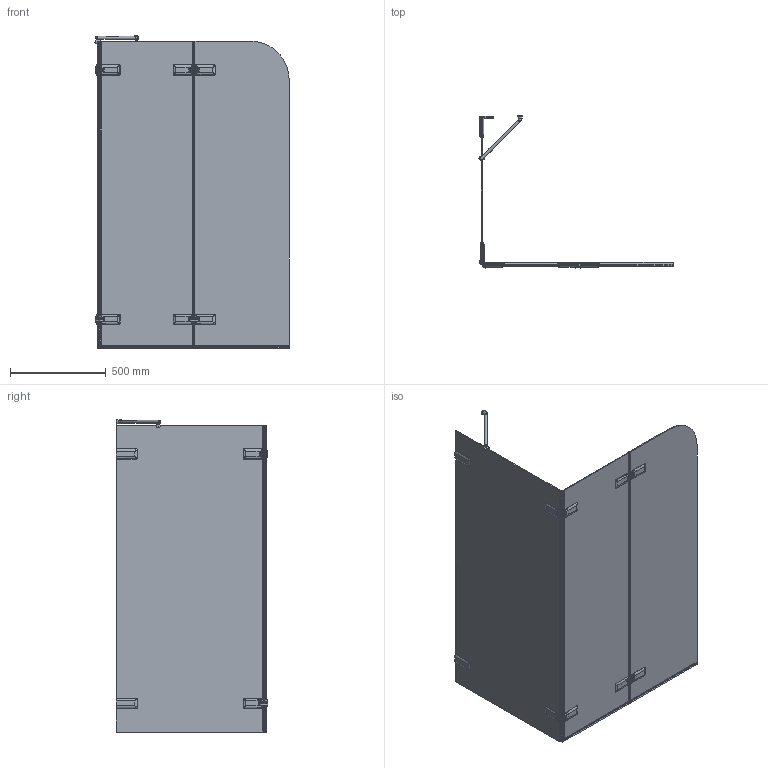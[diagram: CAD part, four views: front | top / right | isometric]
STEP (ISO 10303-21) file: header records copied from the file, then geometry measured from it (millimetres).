
FILE_DESCRIPTION(/* description */ (''),/* implementation_level */ '2;1');
FILE_NAME(/* name */ 'E:\Работа\Сергей\Душевые кабинки\! Работа\\X2\211621162116211621162116211621162116211621162116211621162116\X0\\TREND PEARL GV-863B\TREND PEARL GV-863B левая модель\TREND PEARL GV-863B ЛЕВАЯ-3D.stp',/* time_stamp */ '2018-03-31T11:06:53+03:00',/* author */ ('PC'),/* organization */ (''),/* preprocessor_version */ 'ST-DEVELOPER v15.2',/* originating_system */ 'Autodesk Inventor 2014',/* authorisation */ '');
FILE_SCHEMA (('AUTOMOTIVE_DESIGN { 1 0 10303 214 3 1 1 }'));
Products named in the file (1): TREND PEARL GV-863B ЛЕВАЯ-3D
Bounding box: 1012.68 x 790.17 x 1633.89 mm (x, y, z)
Volume: 17685526.9 mm3; surface area: 5994361.3 mm2
Topology: 10 solids, 10 shells, 1523 faces, 4415 edges, 2839 vertices
Faces by surface type: plane 902, cylinder 524, bspline 82, torus 7, cone 6, sphere 2
Full cylindrical faces by diameter (mm): 10 x9, 15 x1, 20 x2, 26 x1, 40 x2
Entity records: 54583 total; most frequent: CARTESIAN_POINT 12902, ORIENTED_EDGE 8628, DIRECTION 8153, EDGE_CURVE 4312, LINE 3003, VECTOR 3003, VERTEX_POINT 2830, AXIS2_PLACEMENT_3D 2575
